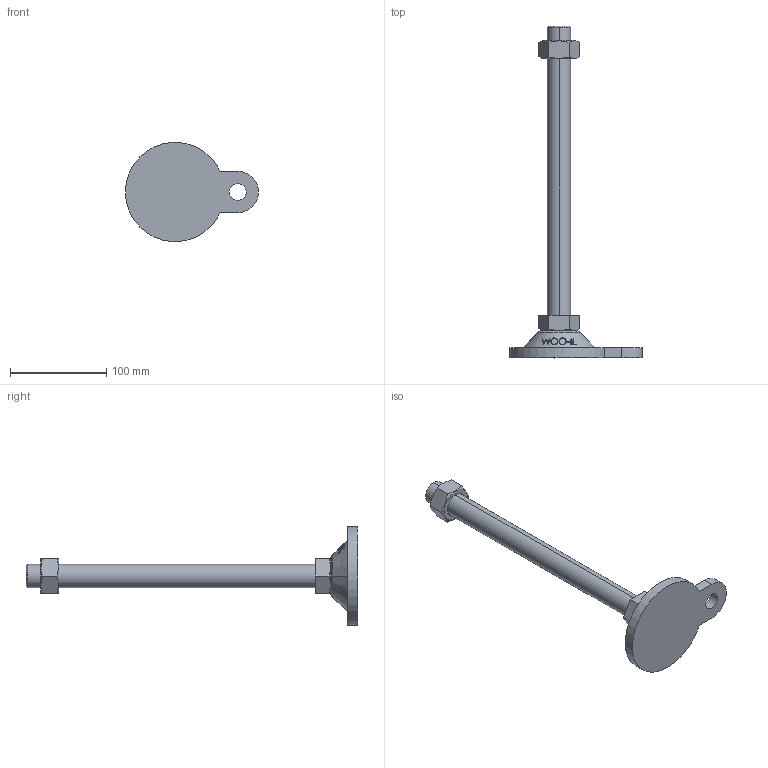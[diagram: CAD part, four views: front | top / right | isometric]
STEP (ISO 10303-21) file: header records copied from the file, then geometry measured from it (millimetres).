
FILE_DESCRIPTION (( 'STEP AP214' ), '1' );
FILE_NAME ('ARB103-M24-300.step', '2021-03-25T00:42:27', ( '' ), ( '' ), 'SwSTEP 2.0', 'SolidWorks 2019', '' );
FILE_SCHEMA (( 'AUTOMOTIVE_DESIGN' ));
Length unit declared in the file: millimetre
Products named in the file (2): ARB103-M24-300
Bounding box: 137.8 x 344 x 102.64 mm (x, y, z)
Volume: 312319.7 mm3; surface area: 56490.4 mm2
Topology: 3 solids, 3 shells, 97 faces, 229 edges, 148 vertices
Faces by surface type: plane 49, cone 22, bspline 16, cylinder 8, torus 2
Entity records: 4448 total; most frequent: CARTESIAN_POINT 2286, ORIENTED_EDGE 458, DIRECTION 375, EDGE_CURVE 229, VERTEX_POINT 148, AXIS2_PLACEMENT_3D 143, EDGE_LOOP 111, FACE_OUTER_BOUND 97
